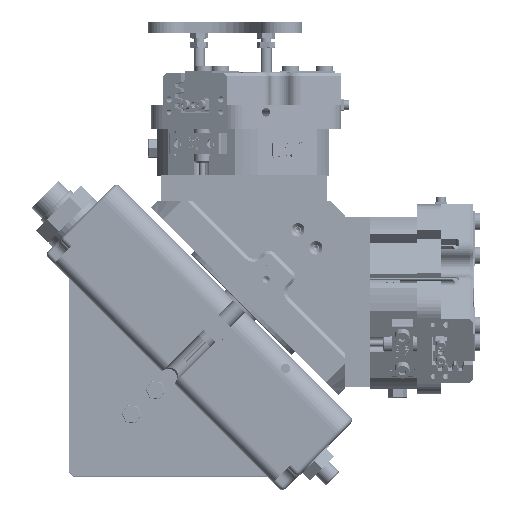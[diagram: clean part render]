
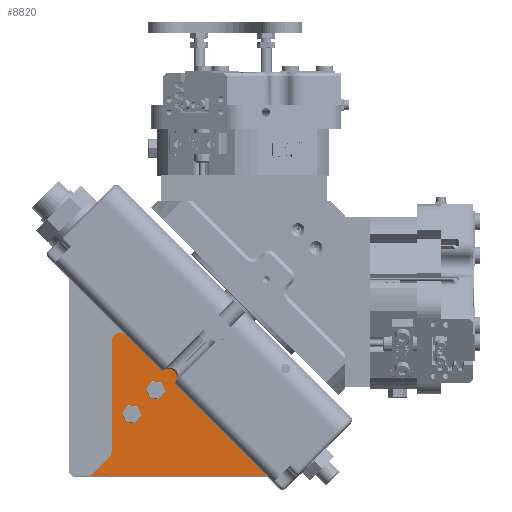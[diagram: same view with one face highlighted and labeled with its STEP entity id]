
A CAD part, top view. The second image highlights one B-rep face of the part: STEP entity #8820.
In plain terms, the highlighted planar face has unit normal (0, 0, 1).
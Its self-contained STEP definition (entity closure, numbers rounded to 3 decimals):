
#124 = LINE ( 'NONE', #57780, #8195 ) ;
#319 = CARTESIAN_POINT ( 'NONE',  ( 50.471, -38.99, 207.7 ) ) ;
#2520 = AXIS2_PLACEMENT_3D ( 'NONE', #41131, #14708, #74254 ) ;
#2928 = ORIENTED_EDGE ( 'NONE', *, *, #75561, .F. ) ;
#4186 = AXIS2_PLACEMENT_3D ( 'NONE', #4422, #79981, #88223 ) ;
#4422 = CARTESIAN_POINT ( 'NONE',  ( 27.802, -21.978, 207.7 ) ) ;
#4456 = ORIENTED_EDGE ( 'NONE', *, *, #87355, .T. ) ;
#5729 = LINE ( 'NONE', #27225, #7105 ) ;
#5836 = DIRECTION ( 'NONE',  ( 0.707, -0.707, 0. ) ) ;
#7105 = VECTOR ( 'NONE', #104286, 1000. ) ;
#7994 = DIRECTION ( 'NONE',  ( 0., 0., 1. ) ) ;
#8195 = VECTOR ( 'NONE', #83094, 1000. ) ;
#8325 = CARTESIAN_POINT ( 'NONE',  ( 97.14, -85.66, 207.7 ) ) ;
#8820 = ADVANCED_FACE ( 'NONE', ( #47628 ), #17844, .F. ) ;
#9845 = ORIENTED_EDGE ( 'NONE', *, *, #104860, .T. ) ;
#11776 = VERTEX_POINT ( 'NONE', #81841 ) ;
#12109 = CIRCLE ( 'NONE', #109552, 5. ) ;
#14041 = VERTEX_POINT ( 'NONE', #89053 ) ;
#14518 = EDGE_CURVE ( 'NONE', #14041, #103734, #59410, .T. ) ;
#14708 = DIRECTION ( 'NONE',  ( 0., 0., -1. ) ) ;
#15700 = DIRECTION ( 'NONE',  ( 0., 0., -1. ) ) ;
#16200 = VERTEX_POINT ( 'NONE', #94335 ) ;
#17539 = AXIS2_PLACEMENT_3D ( 'NONE', #91808, #7994, #80873 ) ;
#17844 = PLANE ( 'NONE',  #25300 ) ;
#17929 = DIRECTION ( 'NONE',  ( -0.707, -0.707, 0. ) ) ;
#18353 = VERTEX_POINT ( 'NONE', #74242 ) ;
#18735 = CARTESIAN_POINT ( 'NONE',  ( 25.592, -18.644, 207.7 ) ) ;
#19534 = CARTESIAN_POINT ( 'NONE',  ( 27.802, -21.978, 207.7 ) ) ;
#19840 = EDGE_CURVE ( 'NONE', #71937, #48687, #27791, .T. ) ;
#21338 = CIRCLE ( 'NONE', #31875, 4. ) ;
#21721 = DIRECTION ( 'NONE',  ( 0.029, -1., 0. ) ) ;
#22961 = EDGE_CURVE ( 'NONE', #77554, #93549, #74575, .T. ) ;
#25300 = AXIS2_PLACEMENT_3D ( 'NONE', #319, #86369, #42447 ) ;
#27225 = CARTESIAN_POINT ( 'NONE',  ( 30.63, -19.15, 207.7 ) ) ;
#27791 = LINE ( 'NONE', #30604, #103773 ) ;
#27811 = CARTESIAN_POINT ( 'NONE',  ( 22.337, -77.124, 207.7 ) ) ;
#30604 = CARTESIAN_POINT ( 'NONE',  ( 47.435, -35.955, 207.7 ) ) ;
#30743 = CARTESIAN_POINT ( 'NONE',  ( 25.067, -19.06, 207.7 ) ) ;
#31875 = AXIS2_PLACEMENT_3D ( 'NONE', #19534, #35897, #45237 ) ;
#32212 = EDGE_CURVE ( 'NONE', #54152, #99751, #106519, .T. ) ;
#33189 = VECTOR ( 'NONE', #17929, 1000. ) ;
#35630 = VECTOR ( 'NONE', #53720, 1000. ) ;
#35897 = DIRECTION ( 'NONE',  ( 0., 0., 1. ) ) ;
#36577 = ORIENTED_EDGE ( 'NONE', *, *, #103402, .T. ) ;
#36950 = CARTESIAN_POINT ( 'NONE',  ( 13.802, -85.66, 207.7 ) ) ;
#40313 = CIRCLE ( 'NONE', #2520, 4.05 ) ;
#41131 = CARTESIAN_POINT ( 'NONE',  ( 50.471, -38.99, 207.7 ) ) ;
#42292 = CARTESIAN_POINT ( 'NONE',  ( 47.778, -35.965, 207.7 ) ) ;
#42386 = LINE ( 'NONE', #70083, #35630 ) ;
#42447 = DIRECTION ( 'NONE',  ( -0.707, 0.707, 0. ) ) ;
#43914 = ORIENTED_EDGE ( 'NONE', *, *, #86080, .F. ) ;
#45237 = DIRECTION ( 'NONE',  ( -0.707, 0.707, 0. ) ) ;
#46078 = VECTOR ( 'NONE', #79938, 1000. ) ;
#47156 = VECTOR ( 'NONE', #21721, 1000. ) ;
#47219 = VERTEX_POINT ( 'NONE', #78707 ) ;
#47628 = FACE_OUTER_BOUND ( 'NONE', #70148, .T. ) ;
#47752 = DIRECTION ( 'NONE',  ( 1., -0.029, 0. ) ) ;
#48687 = VERTEX_POINT ( 'NONE', #42292 ) ;
#52437 = ORIENTED_EDGE ( 'NONE', *, *, #80352, .T. ) ;
#53720 = DIRECTION ( 'NONE',  ( 1., 0., 0. ) ) ;
#54152 = VERTEX_POINT ( 'NONE', #27811 ) ;
#54891 = ORIENTED_EDGE ( 'NONE', *, *, #81468, .F. ) ;
#55593 = ORIENTED_EDGE ( 'NONE', *, *, #71537, .F. ) ;
#57780 = CARTESIAN_POINT ( 'NONE',  ( 23.802, -75.66, 207.7 ) ) ;
#58046 = LINE ( 'NONE', #90031, #46078 ) ;
#58933 = VERTEX_POINT ( 'NONE', #64181 ) ;
#59410 = LINE ( 'NONE', #98580, #72726 ) ;
#62018 = VERTEX_POINT ( 'NONE', #30743 ) ;
#62551 = ORIENTED_EDGE ( 'NONE', *, *, #32212, .T. ) ;
#63234 = CARTESIAN_POINT ( 'NONE',  ( 25.592, -38.99, 207.7 ) ) ;
#64181 = CARTESIAN_POINT ( 'NONE',  ( 23.802, -73.588, 207.7 ) ) ;
#67829 = CARTESIAN_POINT ( 'NONE',  ( 13.802, -85.66, 207.7 ) ) ;
#68494 = LINE ( 'NONE', #96226, #47156 ) ;
#70083 = CARTESIAN_POINT ( 'NONE',  ( 12.935, -19.06, 207.7 ) ) ;
#70148 = EDGE_LOOP ( 'NONE', ( #90433, #55593, #36577, #9845, #4456, #52437, #62551, #2928, #73801, #54891, #103465, #70845, #43914, #91378 ) ) ;
#70845 = ORIENTED_EDGE ( 'NONE', *, *, #19840, .F. ) ;
#70890 = CARTESIAN_POINT ( 'NONE',  ( 25.592, -19.06, 207.7 ) ) ;
#71537 = EDGE_CURVE ( 'NONE', #62018, #77554, #42386, .T. ) ;
#71937 = VERTEX_POINT ( 'NONE', #103869 ) ;
#72726 = VECTOR ( 'NONE', #5836, 1000. ) ;
#73801 = ORIENTED_EDGE ( 'NONE', *, *, #14518, .F. ) ;
#74242 = CARTESIAN_POINT ( 'NONE',  ( 23.802, -21.978, 207.7 ) ) ;
#74254 = DIRECTION ( 'NONE',  ( -0.707, 0.707, 0. ) ) ;
#74575 = LINE ( 'NONE', #63234, #99940 ) ;
#75561 = EDGE_CURVE ( 'NONE', #103734, #99751, #58046, .T. ) ;
#75973 = DIRECTION ( 'NONE',  ( -0.707, 0.707, 0. ) ) ;
#77554 = VERTEX_POINT ( 'NONE', #70890 ) ;
#78707 = CARTESIAN_POINT ( 'NONE',  ( 24.973, -19.15, 207.7 ) ) ;
#79938 = DIRECTION ( 'NONE',  ( -1., 0., 0. ) ) ;
#79981 = DIRECTION ( 'NONE',  ( 0., 0., 1. ) ) ;
#80352 = EDGE_CURVE ( 'NONE', #58933, #54152, #12109, .T. ) ;
#80873 = DIRECTION ( 'NONE',  ( -0.707, 0.707, 0. ) ) ;
#81468 = EDGE_CURVE ( 'NONE', #16200, #14041, #68494, .T. ) ;
#81841 = CARTESIAN_POINT ( 'NONE',  ( 30.63, -19.15, 207.7 ) ) ;
#83094 = DIRECTION ( 'NONE',  ( 0., -1., 0. ) ) ;
#86080 = EDGE_CURVE ( 'NONE', #11776, #71937, #5729, .T. ) ;
#86369 = DIRECTION ( 'NONE',  ( 0., 0., -1. ) ) ;
#87355 = EDGE_CURVE ( 'NONE', #18353, #58933, #124, .T. ) ;
#88223 = DIRECTION ( 'NONE',  ( -0.707, 0.707, 0. ) ) ;
#89053 = CARTESIAN_POINT ( 'NONE',  ( 53.506, -42.026, 207.7 ) ) ;
#89521 = CIRCLE ( 'NONE', #17539, 4. ) ;
#90031 = CARTESIAN_POINT ( 'NONE',  ( 97.14, -85.66, 207.7 ) ) ;
#90433 = ORIENTED_EDGE ( 'NONE', *, *, #22961, .F. ) ;
#91378 = ORIENTED_EDGE ( 'NONE', *, *, #106108, .T. ) ;
#91808 = CARTESIAN_POINT ( 'NONE',  ( 27.802, -21.978, 207.7 ) ) ;
#92069 = CARTESIAN_POINT ( 'NONE',  ( 18.802, -73.588, 207.7 ) ) ;
#93549 = VERTEX_POINT ( 'NONE', #18735 ) ;
#94335 = CARTESIAN_POINT ( 'NONE',  ( 53.496, -41.683, 207.7 ) ) ;
#96226 = CARTESIAN_POINT ( 'NONE',  ( 53.496, -41.683, 207.7 ) ) ;
#97028 = CIRCLE ( 'NONE', #4186, 4. ) ;
#98580 = CARTESIAN_POINT ( 'NONE',  ( 53.506, -42.026, 207.7 ) ) ;
#99751 = VERTEX_POINT ( 'NONE', #36950 ) ;
#99940 = VECTOR ( 'NONE', #104983, 1000. ) ;
#102555 = EDGE_CURVE ( 'NONE', #48687, #16200, #40313, .T. ) ;
#103402 = EDGE_CURVE ( 'NONE', #62018, #47219, #89521, .T. ) ;
#103465 = ORIENTED_EDGE ( 'NONE', *, *, #102555, .F. ) ;
#103734 = VERTEX_POINT ( 'NONE', #8325 ) ;
#103773 = VECTOR ( 'NONE', #47752, 1000. ) ;
#103869 = CARTESIAN_POINT ( 'NONE',  ( 47.435, -35.955, 207.7 ) ) ;
#104286 = DIRECTION ( 'NONE',  ( 0.707, -0.707, 0. ) ) ;
#104860 = EDGE_CURVE ( 'NONE', #47219, #18353, #21338, .T. ) ;
#104983 = DIRECTION ( 'NONE',  ( 0., 1., 0. ) ) ;
#106108 = EDGE_CURVE ( 'NONE', #11776, #93549, #97028, .T. ) ;
#106519 = LINE ( 'NONE', #67829, #33189 ) ;
#109552 = AXIS2_PLACEMENT_3D ( 'NONE', #92069, #15700, #75973 ) ;
